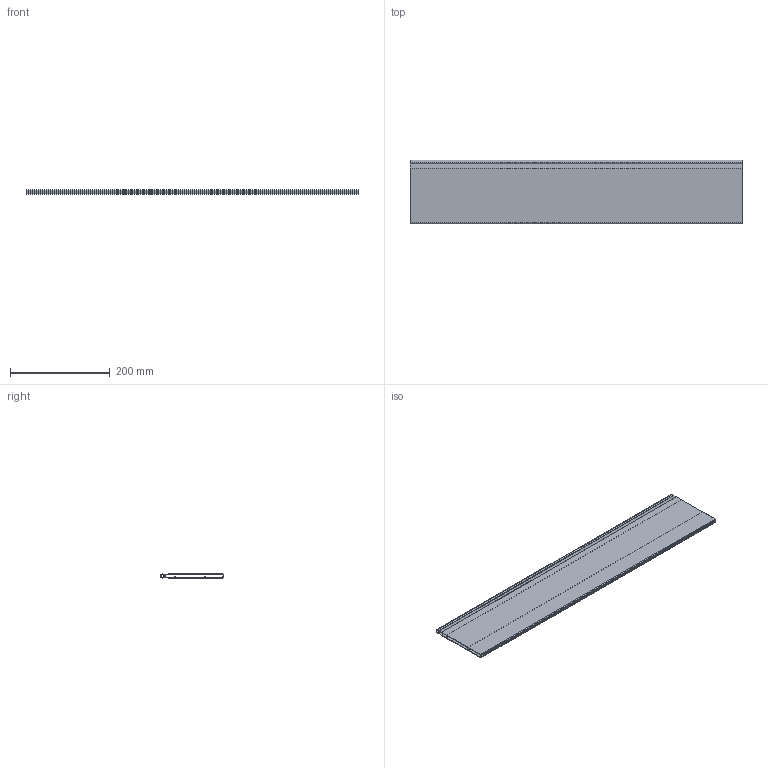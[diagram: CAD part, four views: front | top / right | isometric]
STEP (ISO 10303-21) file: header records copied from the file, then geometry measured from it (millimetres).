
FILE_DESCRIPTION (( 'STEP AP214' ), '1' );
FILE_NAME ('_Magic Optima Unterteilungsprofil DWD XP KAB 800.step', '2010-08-17T12:26:39', ( 'grass' ), ( '' ), 'SwSTEP 2.0', 'SolidWorks 2010', '' );
FILE_SCHEMA (( 'AUTOMOTIVE_DESIGN' ));
Length unit declared in the file: millimetre
Products named in the file (1): _Magic Optima Unterteilungsprofil DWD XP  KAB 800
Bounding box: 666 x 127.7 x 8.1 mm (x, y, z)
Volume: 233448.6 mm3; surface area: 361805.3 mm2
Topology: 1 solids, 1 shells, 39 faces, 111 edges, 74 vertices
Faces by surface type: plane 22, cylinder 17
Entity records: 1325 total; most frequent: DIRECTION 225, CARTESIAN_POINT 225, ORIENTED_EDGE 222, EDGE_CURVE 111, LINE 77, VECTOR 77, AXIS2_PLACEMENT_3D 74, VERTEX_POINT 74
